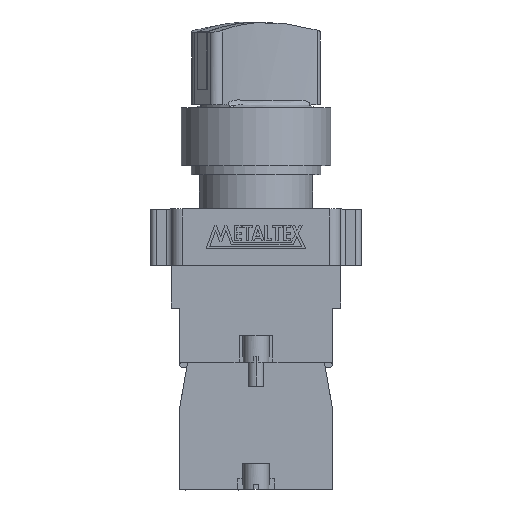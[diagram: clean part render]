
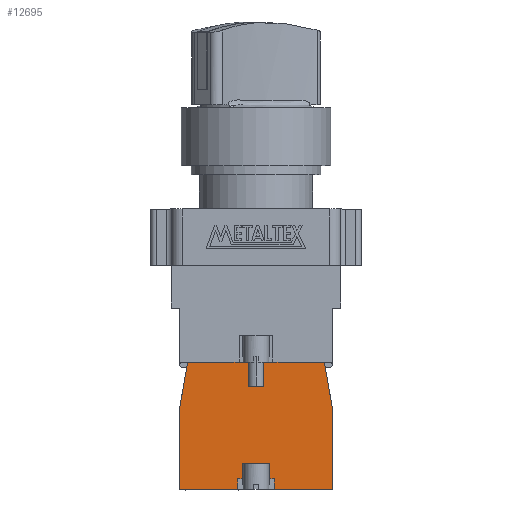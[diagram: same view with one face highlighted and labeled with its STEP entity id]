
A CAD part, top view. The second image highlights one B-rep face of the part: STEP entity #12695.
In plain terms, the highlighted planar face has unit normal (0, 0, 1).
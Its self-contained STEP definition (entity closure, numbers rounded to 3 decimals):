
#692 = EDGE_LOOP ( 'NONE', ( #5687, #5685, #5688, #5686, #5684, #5683, #5681, #5682, #5680, #5679, #5677, #5678, #5676, #5674, #5675, #5673, #5672, #5670 ) ) ;
#1056 = VECTOR ( 'NONE', #10660, 1000. ) ;
#1063 = VECTOR ( 'NONE', #10639, 1000. ) ;
#1069 = VECTOR ( 'NONE', #10621, 1000. ) ;
#1107 = VECTOR ( 'NONE', #10519, 1000. ) ;
#1113 = VECTOR ( 'NONE', #10507, 1000. ) ;
#1120 = VECTOR ( 'NONE', #10486, 1000. ) ;
#1685 = FACE_OUTER_BOUND ( 'NONE', #692, .T. ) ;
#1688 = AXIS2_PLACEMENT_3D ( 'NONE', #10987, #10988, #10989 ) ;
#2682 = VERTEX_POINT ( 'NONE', #5499 ) ;
#4079 = VECTOR ( 'NONE', #12426, 1000. ) ;
#4201 = VECTOR ( 'NONE', #12438, 1000. ) ;
#4273 = VECTOR ( 'NONE', #12405, 1000. ) ;
#4317 = VECTOR ( 'NONE', #12432, 1000. ) ;
#4353 = VECTOR ( 'NONE', #12435, 1000. ) ;
#4366 = VECTOR ( 'NONE', #12441, 1000. ) ;
#4404 = VECTOR ( 'NONE', #12429, 1000. ) ;
#4423 = VECTOR ( 'NONE', #12417, 1000. ) ;
#4425 = VECTOR ( 'NONE', #12420, 1000. ) ;
#4444 = VECTOR ( 'NONE', #12423, 1000. ) ;
#5499 = CARTESIAN_POINT ( 'NONE',  ( -3.5, 0., 7.45 ) ) ;
#5647 = VECTOR ( 'NONE', #12251, 1000. ) ;
#5648 = VECTOR ( 'NONE', #12260, 1000. ) ;
#5670 = ORIENTED_EDGE ( 'NONE', *, *, #13498, .T. ) ;
#5672 = ORIENTED_EDGE ( 'NONE', *, *, #13640, .F. ) ;
#5673 = ORIENTED_EDGE ( 'NONE', *, *, #13458, .T. ) ;
#5674 = ORIENTED_EDGE ( 'NONE', *, *, #13628, .T. ) ;
#5675 = ORIENTED_EDGE ( 'NONE', *, *, #13447, .T. ) ;
#5676 = ORIENTED_EDGE ( 'NONE', *, *, #13577, .T. ) ;
#5677 = ORIENTED_EDGE ( 'NONE', *, *, #13638, .T. ) ;
#5678 = ORIENTED_EDGE ( 'NONE', *, *, #13639, .F. ) ;
#5679 = ORIENTED_EDGE ( 'NONE', *, *, #13637, .F. ) ;
#5680 = ORIENTED_EDGE ( 'NONE', *, *, #13492, .F. ) ;
#5681 = ORIENTED_EDGE ( 'NONE', *, *, #13635, .T. ) ;
#5682 = ORIENTED_EDGE ( 'NONE', *, *, #13636, .T. ) ;
#5683 = ORIENTED_EDGE ( 'NONE', *, *, #13634, .T. ) ;
#5684 = ORIENTED_EDGE ( 'NONE', *, *, #13580, .T. ) ;
#5685 = ORIENTED_EDGE ( 'NONE', *, *, #13454, .T. ) ;
#5686 = ORIENTED_EDGE ( 'NONE', *, *, #13505, .T. ) ;
#5687 = ORIENTED_EDGE ( 'NONE', *, *, #13633, .T. ) ;
#5688 = ORIENTED_EDGE ( 'NONE', *, *, #13632, .T. ) ;
#8832 = CARTESIAN_POINT ( 'NONE',  ( 2.6, 5., 7.45 ) ) ;
#8834 = CARTESIAN_POINT ( 'NONE',  ( -2.6, 5., 7.45 ) ) ;
#10484 = LINE ( 'NONE', #10485, #1120 ) ;
#10485 = CARTESIAN_POINT ( 'NONE',  ( 14.5, 15.5, 7.45 ) ) ;
#10486 = DIRECTION ( 'NONE',  ( -0.17, 0.985, 0. ) ) ;
#10505 = LINE ( 'NONE', #10506, #1113 ) ;
#10506 = CARTESIAN_POINT ( 'NONE',  ( 13., 24.2, 7.45 ) ) ;
#10507 = DIRECTION ( 'NONE',  ( -1., 0., 0. ) ) ;
#10517 = LINE ( 'NONE', #10518, #1107 ) ;
#10518 = CARTESIAN_POINT ( 'NONE',  ( 13., 24.2, 7.45 ) ) ;
#10519 = DIRECTION ( 'NONE',  ( -1., 0., 0. ) ) ;
#10619 = LINE ( 'NONE', #10620, #1069 ) ;
#10620 = CARTESIAN_POINT ( 'NONE',  ( 0., 5., 7.45 ) ) ;
#10621 = DIRECTION ( 'NONE',  ( -1., 0., 0. ) ) ;
#10637 = LINE ( 'NONE', #10638, #1063 ) ;
#10638 = CARTESIAN_POINT ( 'NONE',  ( 0., 19.6, 7.45 ) ) ;
#10639 = DIRECTION ( 'NONE',  ( -1., 0., 0. ) ) ;
#10658 = LINE ( 'NONE', #10659, #1056 ) ;
#10659 = CARTESIAN_POINT ( 'NONE',  ( -14.5, 15.5, 7.45 ) ) ;
#10660 = DIRECTION ( 'NONE',  ( 0., -1., 0. ) ) ;
#10986 = PLANE ( 'NONE',  #1688 ) ;
#10987 = CARTESIAN_POINT ( 'NONE',  ( 0., 0., 7.45 ) ) ;
#10988 = DIRECTION ( 'NONE',  ( 0., 0., 1. ) ) ;
#10989 = DIRECTION ( 'NONE',  ( 1., 0., 0. ) ) ;
#12249 = LINE ( 'NONE', #12250, #5647 ) ;
#12250 = CARTESIAN_POINT ( 'NONE',  ( -14.5, 0., 7.45 ) ) ;
#12251 = DIRECTION ( 'NONE',  ( 1., 0., 0. ) ) ;
#12258 = LINE ( 'NONE', #12259, #5648 ) ;
#12259 = CARTESIAN_POINT ( 'NONE',  ( -14.5, 0., 7.45 ) ) ;
#12260 = DIRECTION ( 'NONE',  ( 1., 0., 0. ) ) ;
#12403 = LINE ( 'NONE', #12404, #4273 ) ;
#12404 = CARTESIAN_POINT ( 'NONE',  ( 14.5, 0., 7.45 ) ) ;
#12405 = DIRECTION ( 'NONE',  ( 0., 1., 0. ) ) ;
#12415 = LINE ( 'NONE', #12416, #4423 ) ;
#12416 = CARTESIAN_POINT ( 'NONE',  ( -13., 24.2, 7.45 ) ) ;
#12417 = DIRECTION ( 'NONE',  ( -0.17, -0.985, 0. ) ) ;
#12418 = LINE ( 'NONE', #12419, #4425 ) ;
#12419 = CARTESIAN_POINT ( 'NONE',  ( -1.5, 19.6, 7.45 ) ) ;
#12420 = DIRECTION ( 'NONE',  ( 0., 1., 0. ) ) ;
#12421 = LINE ( 'NONE', #12422, #4444 ) ;
#12422 = CARTESIAN_POINT ( 'NONE',  ( -3.5, 0., 7.45 ) ) ;
#12423 = DIRECTION ( 'NONE',  ( 0., 1., 0. ) ) ;
#12424 = LINE ( 'NONE', #12425, #4079 ) ;
#12425 = CARTESIAN_POINT ( 'NONE',  ( 0., 2., 7.45 ) ) ;
#12426 = DIRECTION ( 'NONE',  ( 1., 0., 0. ) ) ;
#12427 = LINE ( 'NONE', #12428, #4404 ) ;
#12428 = CARTESIAN_POINT ( 'NONE',  ( -2.6, 0., 7.45 ) ) ;
#12429 = DIRECTION ( 'NONE',  ( 0., 1., 0. ) ) ;
#12430 = LINE ( 'NONE', #12431, #4317 ) ;
#12431 = CARTESIAN_POINT ( 'NONE',  ( 2.6, 0., 7.45 ) ) ;
#12432 = DIRECTION ( 'NONE',  ( 0., 1., 0. ) ) ;
#12433 = LINE ( 'NONE', #12434, #4353 ) ;
#12434 = CARTESIAN_POINT ( 'NONE',  ( 0., 2., 7.45 ) ) ;
#12435 = DIRECTION ( 'NONE',  ( 1., 0., 0. ) ) ;
#12436 = LINE ( 'NONE', #12437, #4201 ) ;
#12437 = CARTESIAN_POINT ( 'NONE',  ( 3.5, 0., 7.45 ) ) ;
#12438 = DIRECTION ( 'NONE',  ( 0., 1., 0. ) ) ;
#12439 = LINE ( 'NONE', #12440, #4366 ) ;
#12440 = CARTESIAN_POINT ( 'NONE',  ( 1.5, 19.6, 7.45 ) ) ;
#12441 = DIRECTION ( 'NONE',  ( 0., 1., 0. ) ) ;
#12695 = ADVANCED_FACE ( 'NONE', ( #1685 ), #10986, .T. ) ;
#13447 = EDGE_CURVE ( 'NONE', #16145, #16146, #10484, .T. ) ;
#13454 = EDGE_CURVE ( 'NONE', #16095, #16070, #10505, .T. ) ;
#13458 = EDGE_CURVE ( 'NONE', #16146, #16060, #10517, .T. ) ;
#13492 = EDGE_CURVE ( 'NONE', #15080, #15082, #10619, .T. ) ;
#13498 = EDGE_CURVE ( 'NONE', #16183, #16191, #10637, .T. ) ;
#13505 = EDGE_CURVE ( 'NONE', #16043, #16065, #10658, .T. ) ;
#13577 = EDGE_CURVE ( 'NONE', #15991, #15996, #12249, .T. ) ;
#13580 = EDGE_CURVE ( 'NONE', #16065, #2682, #12258, .T. ) ;
#13628 = EDGE_CURVE ( 'NONE', #15996, #16145, #12403, .T. ) ;
#13632 = EDGE_CURVE ( 'NONE', #16070, #16043, #12415, .T. ) ;
#13633 = EDGE_CURVE ( 'NONE', #16191, #16095, #12418, .T. ) ;
#13634 = EDGE_CURVE ( 'NONE', #2682, #15886, #12421, .T. ) ;
#13635 = EDGE_CURVE ( 'NONE', #15886, #15908, #12424, .T. ) ;
#13636 = EDGE_CURVE ( 'NONE', #15908, #15082, #12427, .T. ) ;
#13637 = EDGE_CURVE ( 'NONE', #15884, #15080, #12430, .T. ) ;
#13638 = EDGE_CURVE ( 'NONE', #15884, #15883, #12433, .T. ) ;
#13639 = EDGE_CURVE ( 'NONE', #15991, #15883, #12436, .T. ) ;
#13640 = EDGE_CURVE ( 'NONE', #16183, #16060, #12439, .T. ) ;
#15080 = VERTEX_POINT ( 'NONE', #8832 ) ;
#15082 = VERTEX_POINT ( 'NONE', #8834 ) ;
#15883 = VERTEX_POINT ( 'NONE', #17571 ) ;
#15884 = VERTEX_POINT ( 'NONE', #17572 ) ;
#15886 = VERTEX_POINT ( 'NONE', #17573 ) ;
#15908 = VERTEX_POINT ( 'NONE', #17581 ) ;
#15991 = VERTEX_POINT ( 'NONE', #17627 ) ;
#15996 = VERTEX_POINT ( 'NONE', #17632 ) ;
#16043 = VERTEX_POINT ( 'NONE', #17651 ) ;
#16060 = VERTEX_POINT ( 'NONE', #17668 ) ;
#16065 = VERTEX_POINT ( 'NONE', #17673 ) ;
#16070 = VERTEX_POINT ( 'NONE', #17678 ) ;
#16095 = VERTEX_POINT ( 'NONE', #17703 ) ;
#16145 = VERTEX_POINT ( 'NONE', #17753 ) ;
#16146 = VERTEX_POINT ( 'NONE', #17754 ) ;
#16183 = VERTEX_POINT ( 'NONE', #17791 ) ;
#16191 = VERTEX_POINT ( 'NONE', #17799 ) ;
#17571 = CARTESIAN_POINT ( 'NONE',  ( 3.5, 2., 7.45 ) ) ;
#17572 = CARTESIAN_POINT ( 'NONE',  ( 2.6, 2., 7.45 ) ) ;
#17573 = CARTESIAN_POINT ( 'NONE',  ( -3.5, 2., 7.45 ) ) ;
#17581 = CARTESIAN_POINT ( 'NONE',  ( -2.6, 2., 7.45 ) ) ;
#17627 = CARTESIAN_POINT ( 'NONE',  ( 3.5, 0., 7.45 ) ) ;
#17632 = CARTESIAN_POINT ( 'NONE',  ( 14.5, 0., 7.45 ) ) ;
#17651 = CARTESIAN_POINT ( 'NONE',  ( -14.5, 15.5, 7.45 ) ) ;
#17668 = CARTESIAN_POINT ( 'NONE',  ( 1.5, 24.2, 7.45 ) ) ;
#17673 = CARTESIAN_POINT ( 'NONE',  ( -14.5, 0., 7.45 ) ) ;
#17678 = CARTESIAN_POINT ( 'NONE',  ( -13., 24.2, 7.45 ) ) ;
#17703 = CARTESIAN_POINT ( 'NONE',  ( -1.5, 24.2, 7.45 ) ) ;
#17753 = CARTESIAN_POINT ( 'NONE',  ( 14.5, 15.5, 7.45 ) ) ;
#17754 = CARTESIAN_POINT ( 'NONE',  ( 13., 24.2, 7.45 ) ) ;
#17791 = CARTESIAN_POINT ( 'NONE',  ( 1.5, 19.6, 7.45 ) ) ;
#17799 = CARTESIAN_POINT ( 'NONE',  ( -1.5, 19.6, 7.45 ) ) ;
